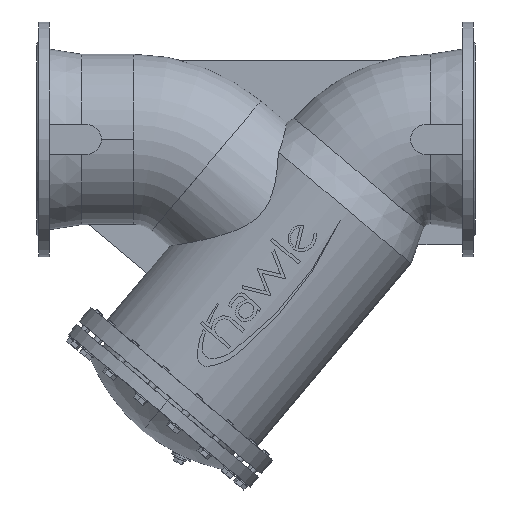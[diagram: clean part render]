
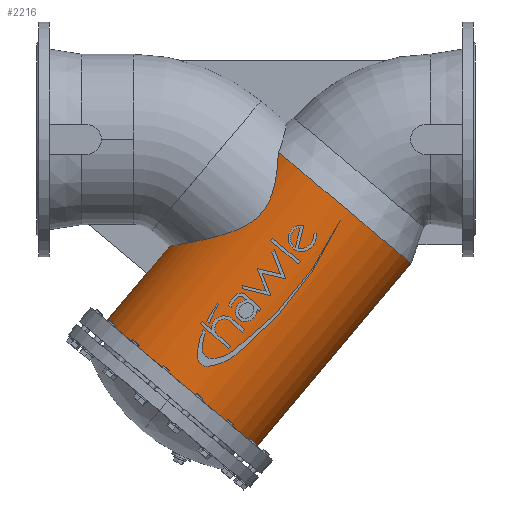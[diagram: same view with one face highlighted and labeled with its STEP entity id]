
A CAD part, front view. The second image highlights one B-rep face of the part: STEP entity #2216.
In plain terms, the highlighted cylindrical face has radius 190 mm (diameter 380 mm), a partial arc.
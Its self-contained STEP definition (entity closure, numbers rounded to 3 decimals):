
#2216=ADVANCED_FACE('',(#4192),#4193,.T.);
#4192=FACE_OUTER_BOUND('',#6583,.T.);
#4193=CYLINDRICAL_SURFACE('',#6584,190.);
#6583=EDGE_LOOP('',(#10225,#10226,#10227,#10228,#10229,#10230,#10231));
#6584=AXIS2_PLACEMENT_3D('',#10232,#10233,#10234);
#10225=ORIENTED_EDGE('',*,*,#13177,.T.);
#10226=ORIENTED_EDGE('',*,*,#13889,.T.);
#10227=ORIENTED_EDGE('',*,*,#13182,.T.);
#10228=ORIENTED_EDGE('',*,*,#13890,.T.);
#10229=ORIENTED_EDGE('',*,*,#13891,.T.);
#10230=ORIENTED_EDGE('',*,*,#13892,.T.);
#10231=ORIENTED_EDGE('',*,*,#13893,.T.);
#10232=CARTESIAN_POINT('',(-270.383,0.0,-117.921));
#10233=DIRECTION('',(-0.643,0.0,-0.766));
#10234=DIRECTION('',(-0.766,0.0,0.643));
#13177=EDGE_CURVE('',#15617,#15618,#15619,.T.);
#13182=EDGE_CURVE('',#15628,#15626,#15629,.T.);
#13889=EDGE_CURVE('',#15618,#15628,#16629,.T.);
#13890=EDGE_CURVE('',#15626,#16630,#16631,.T.);
#13891=EDGE_CURVE('',#16630,#16632,#16633,.T.);
#13892=EDGE_CURVE('',#16632,#16634,#16635,.T.);
#13893=EDGE_CURVE('',#16634,#15617,#16636,.T.);
#15617=VERTEX_POINT('',#18755);
#15618=VERTEX_POINT('',#18756);
#15619=LINE('',#18757,#18758);
#15626=VERTEX_POINT('',#18848);
#15628=VERTEX_POINT('',#18850);
#15629=LINE('',#18851,#18852);
#16629=CIRCLE('',#20208,190.);
#16630=VERTEX_POINT('',#20209);
#16631=CIRCLE('',#20210,190.);
#16632=VERTEX_POINT('',#20211);
#16633=B_SPLINE_CURVE_WITH_KNOTS('',3,(#20212,#20213,#20214,#20215,#20216,#20217,#20218,#20219,#20220,#20221,#20222,#20223,#20224,#20225,#20226,#20227,#20228,#20229),.UNSPECIFIED.,.F.,.F.,(4,2,2,2,2,2,2,2,4),(951.752,969.293,986.835,1004.376,1021.917,1039.459,1057.,1074.542,1083.312),.UNSPECIFIED.);
#16634=VERTEX_POINT('',#20230);
#16635=LINE('',#20231,#20232);
#16636=B_SPLINE_CURVE_WITH_KNOTS('',3,(#20233,#20234,#20235,#20236,#20237,#20238,#20239,#20240,#20241,#20242,#20243,#20244,#20245,#20246,#20247,#20248,#20249,#20250,#20251,#20252,#20253,#20254,#20255,#20256,#20257,#20258,#20259,#20260,#20261,#20262,#20263,#20264,#20265,#20266,#20267,#20268,#20269,#20270,#20271,#20272,#20273,#20274,#20275,#20276,#20277,#20278,#20279,#20280,#20281,#20282,#20283,#20284,#20285,#20286,#20287,#20288,#20289,#20290,#20291,#20292,#20293,#20294,#20295,#20296,#20297,#20298),.UNSPECIFIED.,.F.,.F.,(4,2,2,2,2,2,2,2,2,2,2,2,2,2,2,2,2,2,2,2,2,2,2,2,2,2,2,2,2,2,2,2,4),(8.771,17.541,35.083,52.624,70.166,87.707,105.248,122.79,140.331,156.917,173.504,190.09,206.676,223.262,239.848,256.435,273.021,289.607,306.193,322.779,339.366,355.952,372.538,389.124,405.71,423.252,440.793,458.335,475.876,493.417,510.959,528.5,537.271),.UNSPECIFIED.);
#18755=CARTESIAN_POINT('',(-592.856,0.,-206.641));
#18756=CARTESIAN_POINT('',(-714.185,0.0,-351.236));
#18757=CARTESIAN_POINT('',(-415.931,0.,4.209));
#18758=VECTOR('',#22054,1.0);
#18848=CARTESIAN_POINT('',(-124.835,0.,-240.051));
#18850=CARTESIAN_POINT('',(-423.088,0.,-595.495));
#18851=CARTESIAN_POINT('',(-124.835,0.,-240.051));
#18852=VECTOR('',#22059,1.0);
#20208=AXIS2_PLACEMENT_3D('',#22887,#22888,#22889);
#20209=CARTESIAN_POINT('',(-381.47,-122.764,-24.708));
#20210=AXIS2_PLACEMENT_3D('',#22890,#22891,#22892);
#20211=CARTESIAN_POINT('',(-407.247,-164.681,-133.603));
#20212=CARTESIAN_POINT('',(-381.126,-116.673,-16.606));
#20213=CARTESIAN_POINT('',(-381.296,-120.295,-21.193));
#20214=CARTESIAN_POINT('',(-381.514,-123.787,-26.01));
#20215=CARTESIAN_POINT('',(-382.093,-130.435,-36.009));
#20216=CARTESIAN_POINT('',(-382.454,-133.591,-41.191));
#20217=CARTESIAN_POINT('',(-383.377,-139.509,-51.807));
#20218=CARTESIAN_POINT('',(-383.938,-142.272,-57.241));
#20219=CARTESIAN_POINT('',(-385.34,-147.365,-68.241));
#20220=CARTESIAN_POINT('',(-386.18,-149.695,-73.807));
#20221=CARTESIAN_POINT('',(-388.241,-153.894,-84.939));
#20222=CARTESIAN_POINT('',(-389.462,-155.762,-90.504));
#20223=CARTESIAN_POINT('',(-392.417,-159.011,-101.502));
#20224=CARTESIAN_POINT('',(-394.152,-160.394,-106.934));
#20225=CARTESIAN_POINT('',(-398.298,-162.644,-117.527));
#20226=CARTESIAN_POINT('',(-400.712,-163.512,-122.687));
#20227=CARTESIAN_POINT('',(-404.97,-164.395,-130.117));
#20228=CARTESIAN_POINT('',(-406.496,-164.62,-132.542));
#20229=CARTESIAN_POINT('',(-408.137,-164.771,-134.908));
#20230=CARTESIAN_POINT('',(-420.434,-164.681,-149.318));
#20231=CARTESIAN_POINT('',(-431.439,-164.681,-162.433));
#20232=VECTOR('',#22893,1.);
#20233=CARTESIAN_POINT('',(-419.304,-164.771,-148.215));
#20234=CARTESIAN_POINT('',(-421.348,-164.62,-150.242));
#20235=CARTESIAN_POINT('',(-423.471,-164.395,-152.166));
#20236=CARTESIAN_POINT('',(-430.049,-163.512,-157.65));
#20237=CARTESIAN_POINT('',(-434.712,-162.644,-160.923));
#20238=CARTESIAN_POINT('',(-444.424,-160.394,-166.846));
#20239=CARTESIAN_POINT('',(-449.472,-159.011,-169.497));
#20240=CARTESIAN_POINT('',(-459.789,-155.762,-174.317));
#20241=CARTESIAN_POINT('',(-465.058,-153.894,-176.486));
#20242=CARTESIAN_POINT('',(-475.664,-149.695,-180.449));
#20243=CARTESIAN_POINT('',(-480.999,-147.365,-182.243));
#20244=CARTESIAN_POINT('',(-491.588,-142.272,-185.533));
#20245=CARTESIAN_POINT('',(-496.842,-139.509,-187.03));
#20246=CARTESIAN_POINT('',(-507.137,-133.591,-189.782));
#20247=CARTESIAN_POINT('',(-512.177,-130.435,-191.037));
#20248=CARTESIAN_POINT('',(-521.924,-123.787,-193.344));
#20249=CARTESIAN_POINT('',(-526.63,-120.295,-194.395));
#20250=CARTESIAN_POINT('',(-535.361,-113.247,-196.27));
#20251=CARTESIAN_POINT('',(-539.563,-109.581,-197.134));
#20252=CARTESIAN_POINT('',(-547.734,-101.792,-198.76));
#20253=CARTESIAN_POINT('',(-551.702,-97.668,-199.521));
#20254=CARTESIAN_POINT('',(-559.265,-89.004,-200.933));
#20255=CARTESIAN_POINT('',(-562.861,-84.463,-201.584));
#20256=CARTESIAN_POINT('',(-569.557,-75.018,-202.77));
#20257=CARTESIAN_POINT('',(-572.659,-70.114,-203.306));
#20258=CARTESIAN_POINT('',(-578.265,-60.013,-204.26));
#20259=CARTESIAN_POINT('',(-580.774,-54.81,-204.679));
#20260=CARTESIAN_POINT('',(-585.119,-44.18,-205.396));
#20261=CARTESIAN_POINT('',(-586.956,-38.755,-205.694));
#20262=CARTESIAN_POINT('',(-589.903,-27.779,-206.17));
#20263=CARTESIAN_POINT('',(-591.014,-22.227,-206.348));
#20264=CARTESIAN_POINT('',(-592.491,-11.102,-206.583));
#20265=CARTESIAN_POINT('',(-592.856,-5.529,-206.641));
#20266=CARTESIAN_POINT('',(-592.856,5.529,-206.641));
#20267=CARTESIAN_POINT('',(-592.491,11.102,-206.583));
#20268=CARTESIAN_POINT('',(-591.014,22.227,-206.348));
#20269=CARTESIAN_POINT('',(-589.903,27.779,-206.17));
#20270=CARTESIAN_POINT('',(-586.956,38.755,-205.694));
#20271=CARTESIAN_POINT('',(-585.119,44.18,-205.396));
#20272=CARTESIAN_POINT('',(-580.774,54.81,-204.679));
#20273=CARTESIAN_POINT('',(-578.265,60.013,-204.26));
#20274=CARTESIAN_POINT('',(-572.659,70.114,-203.306));
#20275=CARTESIAN_POINT('',(-569.557,75.018,-202.77));
#20276=CARTESIAN_POINT('',(-562.861,84.463,-201.584));
#20277=CARTESIAN_POINT('',(-559.265,89.004,-200.933));
#20278=CARTESIAN_POINT('',(-551.702,97.668,-199.521));
#20279=CARTESIAN_POINT('',(-547.734,101.792,-198.76));
#20280=CARTESIAN_POINT('',(-539.563,109.581,-197.134));
#20281=CARTESIAN_POINT('',(-535.361,113.247,-196.27));
#20282=CARTESIAN_POINT('',(-526.63,120.295,-194.395));
#20283=CARTESIAN_POINT('',(-521.924,123.787,-193.344));
#20284=CARTESIAN_POINT('',(-512.177,130.435,-191.037));
#20285=CARTESIAN_POINT('',(-507.137,133.591,-189.782));
#20286=CARTESIAN_POINT('',(-496.842,139.509,-187.03));
#20287=CARTESIAN_POINT('',(-491.588,142.272,-185.533));
#20288=CARTESIAN_POINT('',(-480.999,147.365,-182.243));
#20289=CARTESIAN_POINT('',(-475.664,149.695,-180.449));
#20290=CARTESIAN_POINT('',(-465.058,153.894,-176.486));
#20291=CARTESIAN_POINT('',(-459.789,155.762,-174.317));
#20292=CARTESIAN_POINT('',(-449.472,159.011,-169.497));
#20293=CARTESIAN_POINT('',(-444.424,160.394,-166.846));
#20294=CARTESIAN_POINT('',(-434.712,162.644,-160.923));
#20295=CARTESIAN_POINT('',(-430.049,163.512,-157.65));
#20296=CARTESIAN_POINT('',(-423.471,164.395,-152.166));
#20297=CARTESIAN_POINT('',(-421.348,164.62,-150.242));
#20298=CARTESIAN_POINT('',(-419.304,164.771,-148.215));
#22054=DIRECTION('',(-0.643,0.0,-0.766));
#22059=DIRECTION('',(0.643,-0.0,0.766));
#22887=CARTESIAN_POINT('',(-568.637,0.0,-473.365));
#22888=DIRECTION('',(0.643,0.0,0.766));
#22889=DIRECTION('',(-0.766,0.0,0.643));
#22890=CARTESIAN_POINT('',(-270.383,0.0,-117.921));
#22891=DIRECTION('',(-0.643,0.0,-0.766));
#22892=DIRECTION('',(-0.766,0.0,0.643));
#22893=DIRECTION('',(-0.643,0.0,-0.766));
